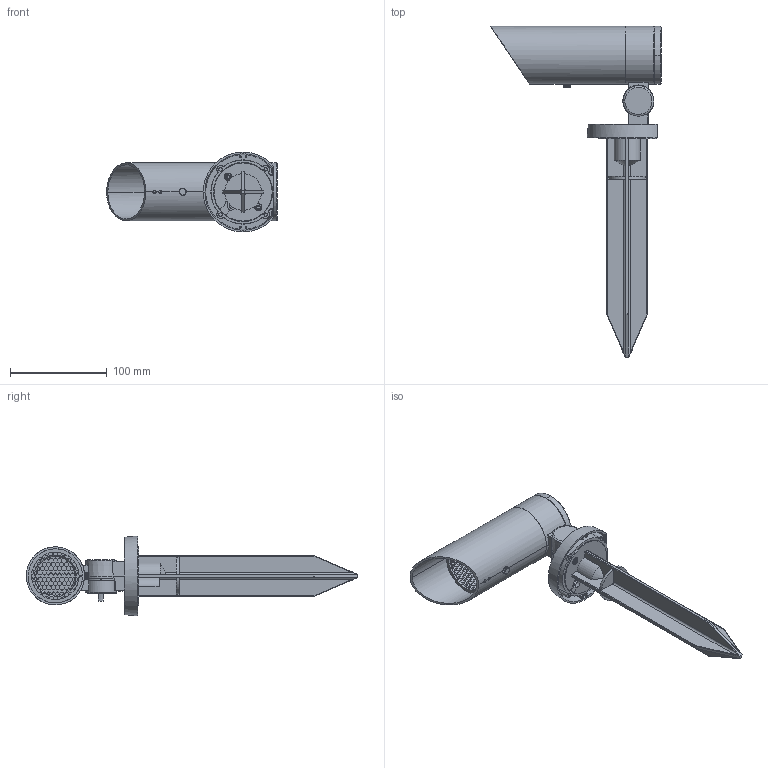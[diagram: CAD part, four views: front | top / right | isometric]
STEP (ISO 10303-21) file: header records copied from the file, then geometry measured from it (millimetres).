
FILE_DESCRIPTION((''),'2;1');
FILE_NAME('3TN_________ASM_3_ASM','2024-08-28T',('C028'),(''),'CREO PARAMETRIC BY PTC INC, 2014190','CREO PARAMETRIC BY PTC INC, 2014190','');
FILE_SCHEMA(('CONFIG_CONTROL_DESIGN'));
Length unit declared in the file: millimetre
Products named in the file (23): 3TN__________-95232_3; 3UB_______3; M3_________3; 3TN__________-18242_ASM_3_ASM; 3TA_________3; 3TN____-174294_3; 3TN____-96773_3; GB-M3X5__3; BACK-COVER-RUBBER-M_3; FACE-RUBBER-M_3; BODY_M_ANY_3; 2DF-DRIVER-BOX_3; B97; REFLECTOR-COVER-M_3; 3TB_____ASM_3_ASM; 3TN____-19394_3; 0_GB_2_1_1_58; 16A_19_1; M5_17_1; 16_ASM_16_ASM_1_ASM; 16_ASM_ASM_1_ASM; _18A_ASM; 3TN_________ASM_3_ASM
Assembly tree (24 placements, depth 5):
  3TN_________ASM_3_ASM
    3TN__________-18242_ASM_3_ASM
      3TN__________-95232_3
      3UB_______3
      M3_________3
    3TA_________3
    3TN____-174294_3
    3TN____-96773_3
    3TB_____ASM_3_ASM
      GB-M3X5__3  x2
      BACK-COVER-RUBBER-M_3
      FACE-RUBBER-M_3
      BODY_M_ANY_3
      2DF-DRIVER-BOX_3
      B97
      REFLECTOR-COVER-M_3
    3TN____-19394_3
    0_GB_2_1_1_58
    _18A_ASM
      16_ASM_ASM_1_ASM
        16_ASM_16_ASM_1_ASM
          16A_19_1
          M5_17_1  x2
Bounding box: 176.2 x 342 x 82.45 mm (x, y, z)
Volume: 318550.3 mm3; surface area: 216023.9 mm2
Topology: 19 solids, 19 shells, 2568 faces, 7192 edges, 4714 vertices
Faces by surface type: plane 1371, cylinder 760, cone 214, bspline 177, torus 34, sphere 12
Entity records: 100558 total; most frequent: CARTESIAN_POINT 37254, ORIENTED_EDGE 13660, DIRECTION 12179, EDGE_CURVE 6830, VERTEX_POINT 4480, VECTOR 4351, LINE 4351, AXIS2_PLACEMENT_3D 3914
